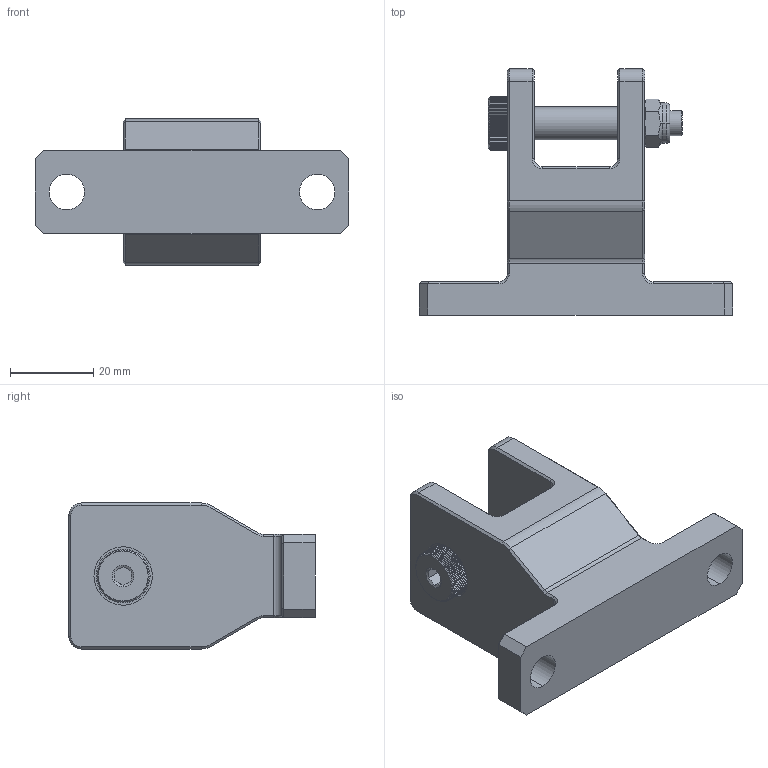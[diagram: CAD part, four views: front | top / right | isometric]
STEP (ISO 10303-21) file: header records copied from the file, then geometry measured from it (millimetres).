
FILE_DESCRIPTION((''),'2;1');
FILE_NAME('6158122110','2016-01-25T',('greextsd'),(''),'CREO PARAMETRIC BY PTC INC, 2015380','CREO PARAMETRIC BY PTC INC, 2015380','');
FILE_SCHEMA(('AUTOMOTIVE_DESIGN { 1 0 10303 214 1 1 1 1 }'));
Length unit declared in the file: millimetre
Products named in the file (1): 6158122110
Bounding box: 75 x 59 x 35 mm (x, y, z)
Volume: 49719.2 mm3; surface area: 13981 mm2
Topology: 1 solids, 1 shells, 353 faces, 954 edges, 612 vertices
Faces by surface type: plane 275, cone 42, cylinder 32, torus 4
Entity records: 14303 total; most frequent: CARTESIAN_POINT 2997, ORIENTED_EDGE 1908, DIRECTION 1546, EDGE_CURVE 954, VECTOR 616, LINE 616, VERTEX_POINT 612, AXIS2_PLACEMENT_3D 465
